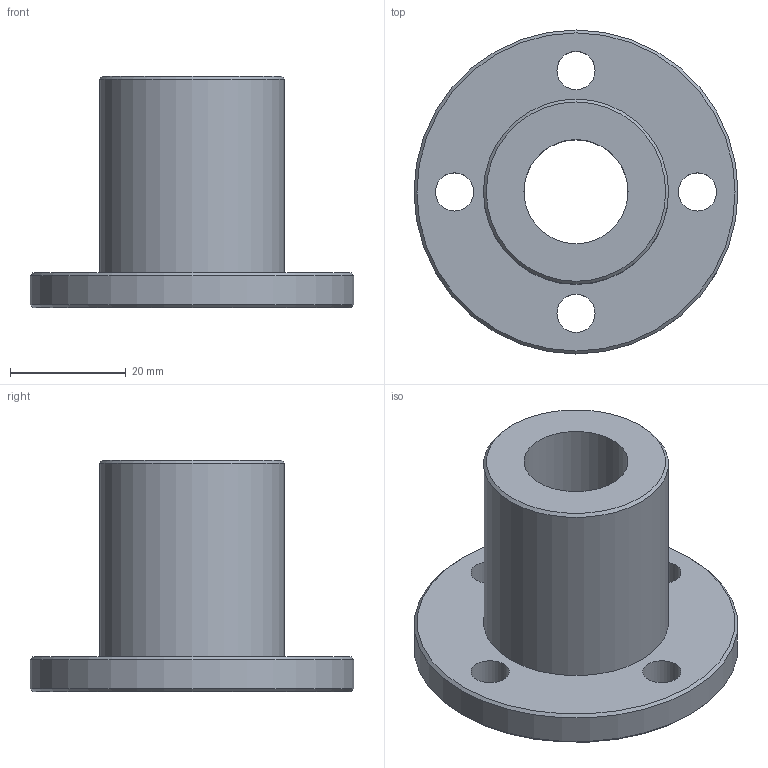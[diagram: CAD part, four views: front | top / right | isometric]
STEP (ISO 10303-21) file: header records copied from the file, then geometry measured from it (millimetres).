
FILE_DESCRIPTION(('STEP AP203'),'1');
FILE_NAME('//192.168.1.1/share/s-4 技術開発/s-4-4_CAD/s-4-4-3_見直し済み/018 修正済み/TMFON/TMFON_TOP/TMFON-18R.step','2022-02-08T05:37:06',(' '),(' '),'Spatial InterOp 3D',' ',' ');
FILE_SCHEMA(('CONFIG_CONTROL_DESIGN'));
Length unit declared in the file: millimetre
Products named in the file (1): 1
Bounding box: 56 x 56 x 40 mm (x, y, z)
Volume: 31066.5 mm3; surface area: 11243.1 mm2
Topology: 1 solids, 1 shells, 13 faces, 27 edges, 17 vertices
Faces by surface type: cylinder 7, plane 3, cone 3
Full cylindrical faces by diameter (mm): 6.6 x4, 18 x1, 32 x1, 56 x1
Entity records: 368 total; most frequent: DIRECTION 62, CARTESIAN_POINT 48, EDGE_LOOP 34, ORIENTED_EDGE 34, AXIS2_PLACEMENT_3D 31, FACE_OUTER_BOUND 20, EDGE_CURVE 17, VERTEX_POINT 17
